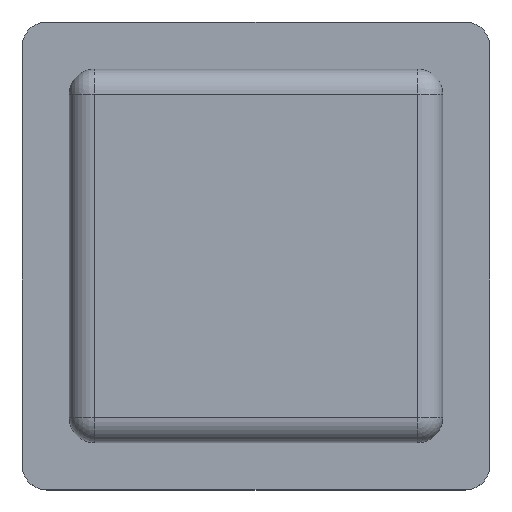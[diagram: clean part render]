
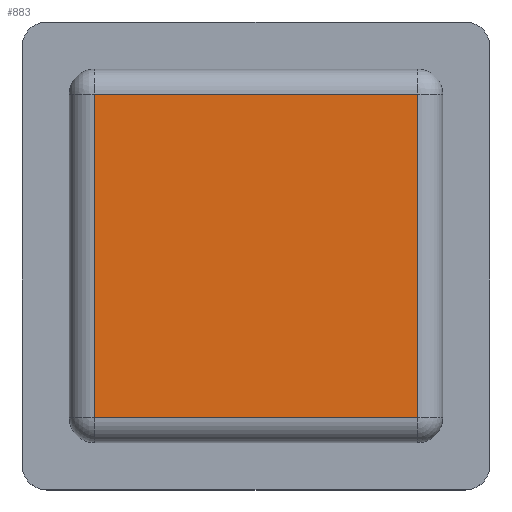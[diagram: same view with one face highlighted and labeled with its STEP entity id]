
A CAD part, top view. The second image highlights one B-rep face of the part: STEP entity #883.
In plain terms, the highlighted planar face has unit normal (0, 0, 1).
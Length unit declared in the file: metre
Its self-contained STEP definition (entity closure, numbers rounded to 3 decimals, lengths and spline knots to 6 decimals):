
#120=ORIENTED_EDGE('',*,*,#384,.T.);
#121=ORIENTED_EDGE('',*,*,#385,.T.);
#122=ORIENTED_EDGE('',*,*,#386,.T.);
#123=ORIENTED_EDGE('',*,*,#387,.T.);
#384=EDGE_CURVE('',#516,#517,#592,.F.);
#385=EDGE_CURVE('',#517,#518,#593,.F.);
#386=EDGE_CURVE('',#518,#519,#594,.T.);
#387=EDGE_CURVE('',#519,#516,#595,.T.);
#516=VERTEX_POINT('',#1411);
#517=VERTEX_POINT('',#1412);
#518=VERTEX_POINT('',#1414);
#519=VERTEX_POINT('',#1416);
#592=LINE('',#1410,#676);
#593=LINE('',#1413,#677);
#594=LINE('',#1415,#678);
#595=LINE('',#1417,#679);
#676=VECTOR('',#1103,1.);
#677=VECTOR('',#1104,1.);
#678=VECTOR('',#1105,1.);
#679=VECTOR('',#1106,1.);
#742=EDGE_LOOP('',(#120,#121,#122,#123));
#800=FACE_BOUND('',#742,.T.);
#857=PLANE('',#960);
#883=ADVANCED_FACE('',(#800),#857,.T.);
#960=AXIS2_PLACEMENT_3D('',#1409,#1101,#1102);
#1101=DIRECTION('',(0.,0.,1.));
#1102=DIRECTION('',(1.,0.,0.));
#1103=DIRECTION('',(0.,1.,0.));
#1104=DIRECTION('',(-1.,0.,0.));
#1105=DIRECTION('',(0.,1.,0.));
#1106=DIRECTION('',(-1.,0.,0.));
#1409=CARTESIAN_POINT('',(0.,0.,0.0035));
#1410=CARTESIAN_POINT('',(-0.0065,0.,0.0035));
#1411=CARTESIAN_POINT('',(-0.0065,0.0065,0.0035));
#1412=CARTESIAN_POINT('',(-0.0065,-0.0065,0.0035));
#1413=CARTESIAN_POINT('',(0.,-0.0065,0.0035));
#1414=CARTESIAN_POINT('',(0.0065,-0.0065,0.0035));
#1415=CARTESIAN_POINT('',(0.0065,0.0075,0.0035));
#1416=CARTESIAN_POINT('',(0.0065,0.0065,0.0035));
#1417=CARTESIAN_POINT('',(-0.0075,0.0065,0.0035));
